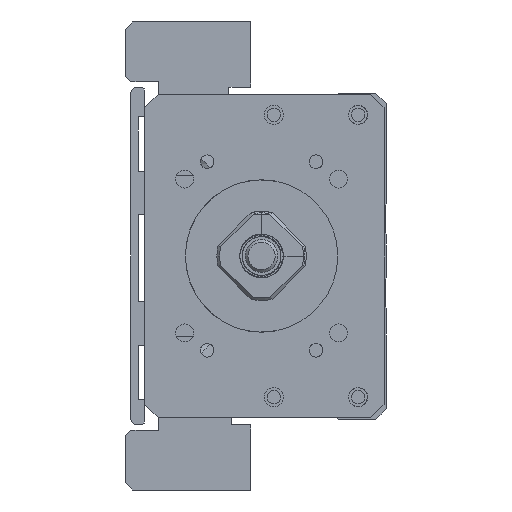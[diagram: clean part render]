
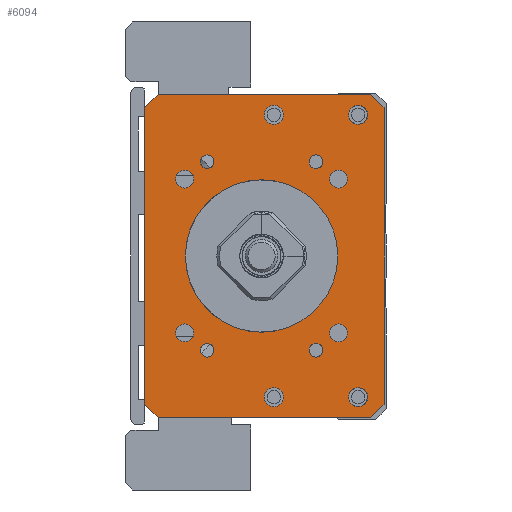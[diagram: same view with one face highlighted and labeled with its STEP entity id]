
A CAD part, left-side view. The second image highlights one B-rep face of the part: STEP entity #6094.
In plain terms, the highlighted planar face has unit normal (-1, 0, 0).
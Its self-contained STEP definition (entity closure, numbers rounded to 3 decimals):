
#4826=FACE_BOUND('',#7960,.T.);
#4827=FACE_BOUND('',#7961,.T.);
#4828=FACE_BOUND('',#7962,.T.);
#4829=FACE_BOUND('',#7963,.T.);
#4830=FACE_BOUND('',#7964,.T.);
#4831=FACE_BOUND('',#7965,.T.);
#4832=FACE_BOUND('',#7966,.T.);
#4833=FACE_BOUND('',#7967,.T.);
#4834=FACE_BOUND('',#7968,.T.);
#4835=FACE_BOUND('',#7969,.T.);
#4836=FACE_BOUND('',#7970,.T.);
#4837=FACE_BOUND('',#7971,.T.);
#4838=FACE_BOUND('',#7972,.T.);
#4839=FACE_BOUND('',#7973,.T.);
#5432=CIRCLE('',#17168,14.);
#5441=CIRCLE('',#17179,1.65);
#5442=CIRCLE('',#17180,1.65);
#5443=CIRCLE('',#17181,1.65);
#5444=CIRCLE('',#17182,1.65);
#5445=CIRCLE('',#17183,1.25);
#5446=CIRCLE('',#17184,1.75);
#5447=CIRCLE('',#17185,1.25);
#5448=CIRCLE('',#17186,1.75);
#5449=CIRCLE('',#17187,1.25);
#5450=CIRCLE('',#17188,1.75);
#5451=CIRCLE('',#17189,1.75);
#5452=CIRCLE('',#17190,1.25);
#6094=ADVANCED_FACE('',(#4826,#4827,#4828,#4829,#4830,#4831,#4832,#4833,
#4834,#4835,#4836,#4837,#4838,#4839),#6692,.F.);
#6692=PLANE('',#17191);
#7960=EDGE_LOOP('',(#10432));
#7961=EDGE_LOOP('',(#10433));
#7962=EDGE_LOOP('',(#10434));
#7963=EDGE_LOOP('',(#10435));
#7964=EDGE_LOOP('',(#10436));
#7965=EDGE_LOOP('',(#10437));
#7966=EDGE_LOOP('',(#10438));
#7967=EDGE_LOOP('',(#10439));
#7968=EDGE_LOOP('',(#10440));
#7969=EDGE_LOOP('',(#10441,#10442,#10443,#10444,#10445,#10446,#10447,#10448));
#7970=EDGE_LOOP('',(#10449));
#7971=EDGE_LOOP('',(#10450));
#7972=EDGE_LOOP('',(#10451));
#7973=EDGE_LOOP('',(#10452));
#10432=ORIENTED_EDGE('',*,*,#13879,.F.);
#10433=ORIENTED_EDGE('',*,*,#13880,.F.);
#10434=ORIENTED_EDGE('',*,*,#13881,.F.);
#10435=ORIENTED_EDGE('',*,*,#13882,.F.);
#10436=ORIENTED_EDGE('',*,*,#13883,.F.);
#10437=ORIENTED_EDGE('',*,*,#13884,.T.);
#10438=ORIENTED_EDGE('',*,*,#13885,.F.);
#10439=ORIENTED_EDGE('',*,*,#13886,.F.);
#10440=ORIENTED_EDGE('',*,*,#13887,.F.);
#10441=ORIENTED_EDGE('',*,*,#13876,.T.);
#10442=ORIENTED_EDGE('',*,*,#13888,.T.);
#10443=ORIENTED_EDGE('',*,*,#13889,.F.);
#10444=ORIENTED_EDGE('',*,*,#13890,.T.);
#10445=ORIENTED_EDGE('',*,*,#13891,.F.);
#10446=ORIENTED_EDGE('',*,*,#13892,.T.);
#10447=ORIENTED_EDGE('',*,*,#13893,.T.);
#10448=ORIENTED_EDGE('',*,*,#13894,.T.);
#10449=ORIENTED_EDGE('',*,*,#13895,.F.);
#10450=ORIENTED_EDGE('',*,*,#13896,.F.);
#10451=ORIENTED_EDGE('',*,*,#13897,.F.);
#10452=ORIENTED_EDGE('',*,*,#13856,.F.);
#12414=VERTEX_POINT('',#23725);
#12434=VERTEX_POINT('',#23801);
#12435=VERTEX_POINT('',#23803);
#12437=VERTEX_POINT('',#23809);
#12438=VERTEX_POINT('',#23811);
#12439=VERTEX_POINT('',#23813);
#12440=VERTEX_POINT('',#23815);
#12441=VERTEX_POINT('',#23817);
#12442=VERTEX_POINT('',#23819);
#12443=VERTEX_POINT('',#23821);
#12444=VERTEX_POINT('',#23823);
#12445=VERTEX_POINT('',#23825);
#12446=VERTEX_POINT('',#23827);
#12447=VERTEX_POINT('',#23829);
#12448=VERTEX_POINT('',#23831);
#12449=VERTEX_POINT('',#23833);
#12450=VERTEX_POINT('',#23835);
#12451=VERTEX_POINT('',#23837);
#12452=VERTEX_POINT('',#23840);
#12453=VERTEX_POINT('',#23842);
#12454=VERTEX_POINT('',#23844);
#13856=EDGE_CURVE('',#12414,#12414,#5432,.T.);
#13876=EDGE_CURVE('',#12435,#12434,#15212,.T.);
#13879=EDGE_CURVE('',#12437,#12437,#5441,.T.);
#13880=EDGE_CURVE('',#12438,#12438,#5442,.T.);
#13881=EDGE_CURVE('',#12439,#12439,#5443,.T.);
#13882=EDGE_CURVE('',#12440,#12440,#5444,.T.);
#13883=EDGE_CURVE('',#12441,#12441,#5445,.T.);
#13884=EDGE_CURVE('',#12442,#12442,#5446,.T.);
#13885=EDGE_CURVE('',#12443,#12443,#5447,.T.);
#13886=EDGE_CURVE('',#12444,#12444,#5448,.T.);
#13887=EDGE_CURVE('',#12445,#12445,#5449,.T.);
#13888=EDGE_CURVE('',#12434,#12446,#15214,.T.);
#13889=EDGE_CURVE('',#12447,#12446,#15215,.T.);
#13890=EDGE_CURVE('',#12447,#12448,#15216,.T.);
#13891=EDGE_CURVE('',#12449,#12448,#15217,.T.);
#13892=EDGE_CURVE('',#12449,#12450,#15218,.T.);
#13893=EDGE_CURVE('',#12450,#12451,#15219,.T.);
#13894=EDGE_CURVE('',#12451,#12435,#15220,.T.);
#13895=EDGE_CURVE('',#12452,#12452,#5450,.T.);
#13896=EDGE_CURVE('',#12453,#12453,#5451,.T.);
#13897=EDGE_CURVE('',#12454,#12454,#5452,.T.);
#15212=LINE('',#23802,#16195);
#15214=LINE('',#23826,#16197);
#15215=LINE('',#23828,#16198);
#15216=LINE('',#23830,#16199);
#15217=LINE('',#23832,#16200);
#15218=LINE('',#23834,#16201);
#15219=LINE('',#23836,#16202);
#15220=LINE('',#23838,#16203);
#16195=VECTOR('',#19815,1.);
#16197=VECTOR('',#19839,1.);
#16198=VECTOR('',#19840,1.);
#16199=VECTOR('',#19841,1.);
#16200=VECTOR('',#19842,1.);
#16201=VECTOR('',#19843,1.);
#16202=VECTOR('',#19844,1.);
#16203=VECTOR('',#19845,1.);
#17168=AXIS2_PLACEMENT_3D('',#23724,#19789,#19790);
#17179=AXIS2_PLACEMENT_3D('',#23808,#19821,#19822);
#17180=AXIS2_PLACEMENT_3D('',#23810,#19823,#19824);
#17181=AXIS2_PLACEMENT_3D('',#23812,#19825,#19826);
#17182=AXIS2_PLACEMENT_3D('',#23814,#19827,#19828);
#17183=AXIS2_PLACEMENT_3D('',#23816,#19829,#19830);
#17184=AXIS2_PLACEMENT_3D('',#23818,#19831,#19832);
#17185=AXIS2_PLACEMENT_3D('',#23820,#19833,#19834);
#17186=AXIS2_PLACEMENT_3D('',#23822,#19835,#19836);
#17187=AXIS2_PLACEMENT_3D('',#23824,#19837,#19838);
#17188=AXIS2_PLACEMENT_3D('',#23839,#19846,#19847);
#17189=AXIS2_PLACEMENT_3D('',#23841,#19848,#19849);
#17190=AXIS2_PLACEMENT_3D('',#23843,#19850,#19851);
#17191=AXIS2_PLACEMENT_3D('',#23845,#19852,#19853);
#19789=DIRECTION('',(-1.,0.,0.));
#19790=DIRECTION('',(0.,1.,0.));
#19815=DIRECTION('',(0.,0.,-1.));
#19821=DIRECTION('',(-1.,0.,0.));
#19822=DIRECTION('',(0.,0.,1.));
#19823=DIRECTION('',(-1.,0.,0.));
#19824=DIRECTION('',(0.,0.,1.));
#19825=DIRECTION('',(-1.,0.,0.));
#19826=DIRECTION('',(0.,0.,1.));
#19827=DIRECTION('',(-1.,0.,0.));
#19828=DIRECTION('',(0.,0.,1.));
#19829=DIRECTION('',(-1.,0.,0.));
#19830=DIRECTION('',(0.,1.,0.));
#19831=DIRECTION('',(1.,0.,0.));
#19832=DIRECTION('',(0.,0.,1.));
#19833=DIRECTION('',(-1.,0.,0.));
#19834=DIRECTION('',(0.,1.,0.));
#19835=DIRECTION('',(-1.,0.,0.));
#19836=DIRECTION('',(0.,0.,1.));
#19837=DIRECTION('',(-1.,0.,0.));
#19838=DIRECTION('',(0.,1.,0.));
#19839=DIRECTION('',(0.,-0.707,-0.707));
#19840=DIRECTION('',(0.,1.,0.));
#19841=DIRECTION('',(0.,-0.707,0.707));
#19842=DIRECTION('',(0.,0.,-1.));
#19843=DIRECTION('',(0.,0.707,0.707));
#19844=DIRECTION('',(0.,1.,0.));
#19845=DIRECTION('',(0.,0.707,-0.707));
#19846=DIRECTION('',(-1.,0.,0.));
#19847=DIRECTION('',(0.,0.,1.));
#19848=DIRECTION('',(-1.,0.,0.));
#19849=DIRECTION('',(0.,0.,1.));
#19850=DIRECTION('',(-1.,0.,0.));
#19851=DIRECTION('',(0.,1.,0.));
#19852=DIRECTION('',(1.,0.,0.));
#19853=DIRECTION('',(0.,1.,0.));
#23724=CARTESIAN_POINT('',(-211.,0.,-100.));
#23725=CARTESIAN_POINT('',(-211.,14.,-100.));
#23801=CARTESIAN_POINT('',(-211.,21.499,-127.25));
#23802=CARTESIAN_POINT('',(-211.,21.499,-70.25));
#23803=CARTESIAN_POINT('',(-211.,21.499,-72.75));
#23808=CARTESIAN_POINT('',(-211.,14.142,-85.858));
#23809=CARTESIAN_POINT('',(-211.,14.142,-84.208));
#23810=CARTESIAN_POINT('',(-211.,-14.142,-85.858));
#23811=CARTESIAN_POINT('',(-211.,-14.142,-84.208));
#23812=CARTESIAN_POINT('',(-211.,14.142,-114.142));
#23813=CARTESIAN_POINT('',(-211.,14.142,-112.492));
#23814=CARTESIAN_POINT('',(-211.,-14.142,-114.142));
#23815=CARTESIAN_POINT('',(-211.,-14.142,-112.492));
#23816=CARTESIAN_POINT('',(-211.,-10.,-117.321));
#23817=CARTESIAN_POINT('',(-211.,-8.75,-117.321));
#23818=CARTESIAN_POINT('',(-211.,-2.25,-125.936));
#23819=CARTESIAN_POINT('',(-211.,-2.25,-124.186));
#23820=CARTESIAN_POINT('',(-211.,10.,-82.679));
#23821=CARTESIAN_POINT('',(-211.,11.25,-82.679));
#23822=CARTESIAN_POINT('',(-211.,-2.25,-74.064));
#23823=CARTESIAN_POINT('',(-211.,-2.25,-72.314));
#23824=CARTESIAN_POINT('',(-211.,10.,-117.321));
#23825=CARTESIAN_POINT('',(-211.,11.25,-117.321));
#23826=CARTESIAN_POINT('',(-211.,18.999,-129.75));
#23827=CARTESIAN_POINT('',(-211.,18.999,-129.75));
#23828=CARTESIAN_POINT('',(-211.,-22.501,-129.75));
#23829=CARTESIAN_POINT('',(-211.,-20.001,-129.75));
#23830=CARTESIAN_POINT('',(-211.,-22.501,-127.25));
#23831=CARTESIAN_POINT('',(-211.,-22.501,-127.25));
#23832=CARTESIAN_POINT('',(-211.,-22.501,-70.25));
#23833=CARTESIAN_POINT('',(-211.,-22.501,-72.75));
#23834=CARTESIAN_POINT('',(-211.,-22.501,-72.75));
#23835=CARTESIAN_POINT('',(-211.,-20.001,-70.25));
#23836=CARTESIAN_POINT('',(-211.,-22.501,-70.25));
#23837=CARTESIAN_POINT('',(-211.,18.999,-70.25));
#23838=CARTESIAN_POINT('',(-211.,18.999,-70.25));
#23839=CARTESIAN_POINT('',(-211.,-17.75,-74.064));
#23840=CARTESIAN_POINT('',(-211.,-17.75,-72.314));
#23841=CARTESIAN_POINT('',(-211.,-17.75,-125.936));
#23842=CARTESIAN_POINT('',(-211.,-17.75,-124.186));
#23843=CARTESIAN_POINT('',(-211.,-10.,-82.679));
#23844=CARTESIAN_POINT('',(-211.,-8.75,-82.679));
#23845=CARTESIAN_POINT('',(-211.,-22.501,-70.25));
